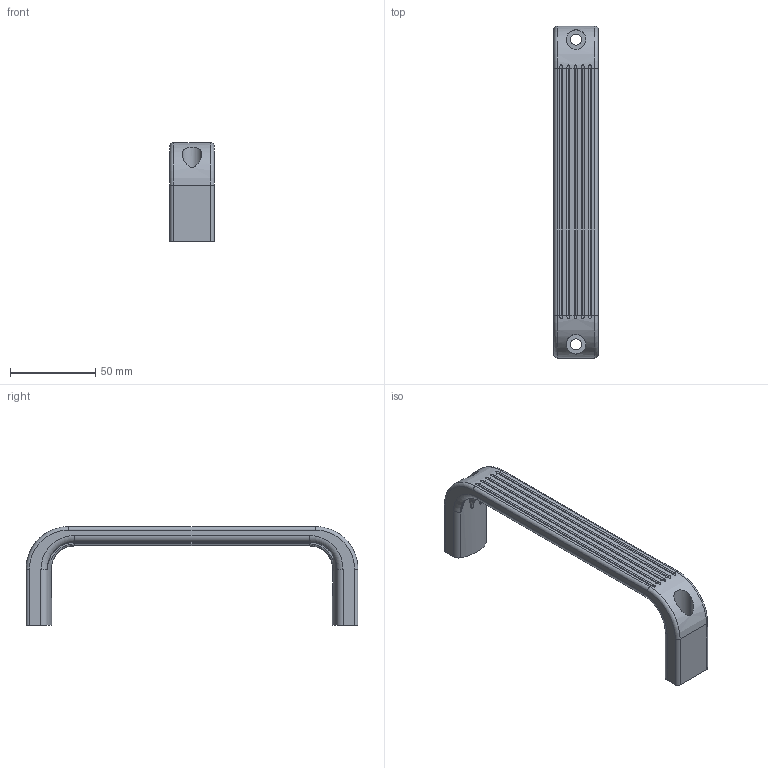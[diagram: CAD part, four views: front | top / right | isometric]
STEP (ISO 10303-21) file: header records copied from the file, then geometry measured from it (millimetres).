
FILE_DESCRIPTION (( 'STEP AP214' ), '1' );
FILE_NAME ('092307.STEP', '2013-03-18T08:54:01', ( '' ), ( '' ), 'SwSTEP 2.0', 'SolidWorks 2012', '' );
FILE_SCHEMA (( 'AUTOMOTIVE_DESIGN' ));
Length unit declared in the file: millimetre
Products named in the file (1): 092307
Bounding box: 26 x 195 x 58 mm (x, y, z)
Volume: 54917.4 mm3; surface area: 31068 mm2
Topology: 1 solids, 1 shells, 157 faces, 393 edges, 244 vertices
Faces by surface type: cylinder 74, torus 44, plane 39
Entity records: 5193 total; most frequent: CARTESIAN_POINT 1297, DIRECTION 875, ORIENTED_EDGE 786, EDGE_CURVE 393, AXIS2_PLACEMENT_3D 356, VERTEX_POINT 244, CIRCLE 198, EDGE_LOOP 167
